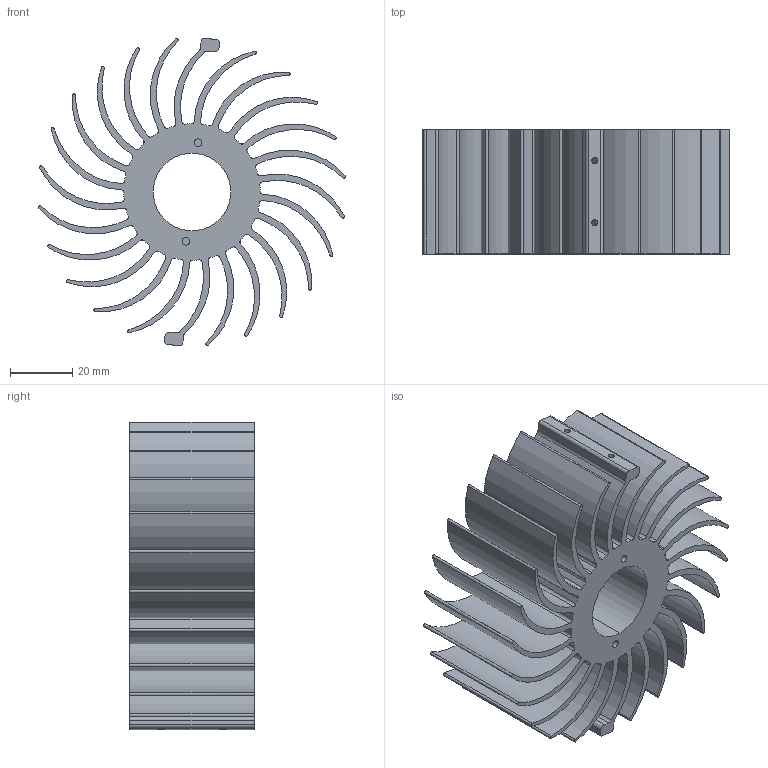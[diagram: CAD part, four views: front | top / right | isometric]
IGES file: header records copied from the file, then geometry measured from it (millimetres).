
Start section:  PTC IGES file: x00553-revd.igs
Global section: file name: x00553-revd.igs; native system: Pro/ENGINEER by Parametric Technology Corporation; preprocessor: 2010230; author: Jonah; organization: Unknown; date: 20120604.154043; units: millimetre
Bounding box: 98.9 x 40 x 99.16 mm (x, y, z)
Volume: 96718.7 mm3; surface area: 74230.8 mm2
Topology: 1 solids, 1 shells, 193 faces, 564 edges, 376 vertices
Faces by surface type: revolution 178, bspline 15
